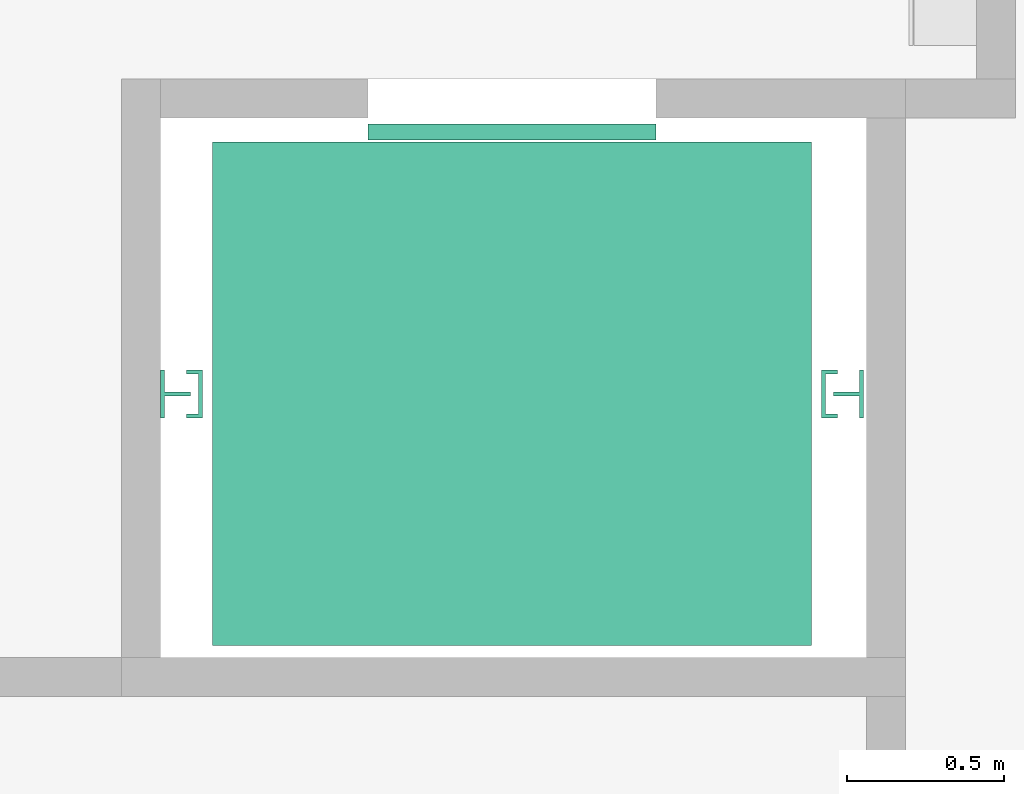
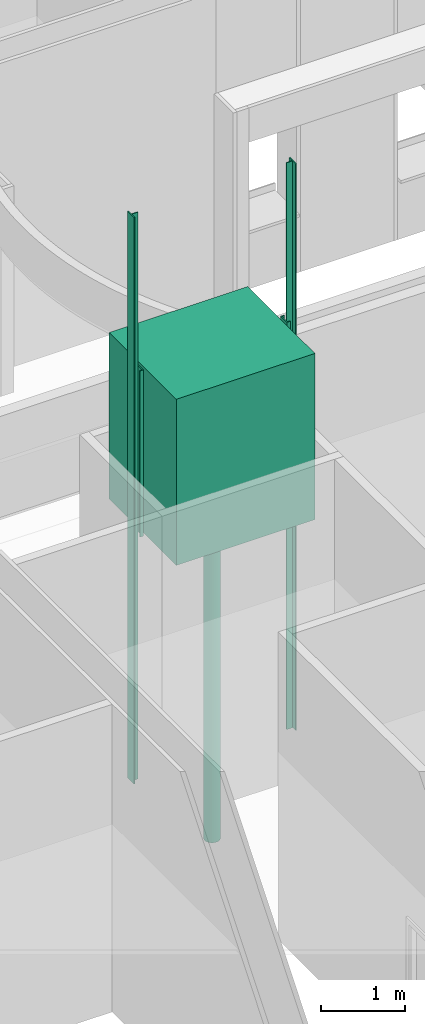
# One storey, part 73 of 87: 1 flow terminal.
"""IFC2X3 building model written with IfcOpenShell, lengths in metres."""

from ifc_helpers import new_model, entity, si_unit, converted_unit, frame, origin, place, context, project, spatial, face_set, surface_model, source, transform, mapped, type_object, type_shapes, element, save


model = new_model("IFC2X3")

# Units and contexts
model_context = context("Model", 3, precision=1e-09, world=origin())
plan_context = context("Plan", 3, precision=1e-09, world=origin())
ifc_project = project(units=[si_unit("LENGTHUNIT", "METRE"), si_unit("AREAUNIT", "SQUARE_METRE"), si_unit("VOLUMEUNIT", "CUBIC_METRE"), converted_unit("PLANEANGLEUNIT", "DEGREE", entity("IfcRatioMeasure", 0.01745329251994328), si_unit("PLANEANGLEUNIT", "RADIAN"), dimensions=[0, 0, 0, 0, 0, 0, 0]), si_unit("TIMEUNIT", "SECOND")], contexts=[model_context, plan_context])

# Site, building, storey, space
site_placement = place(None, origin())
site = spatial("IfcSite", under=ifc_project, at=site_placement, Name="Default", CompositionType="ELEMENT")
building_placement = place(site_placement, origin())
building = spatial("IfcBuilding", under=site, at=building_placement, CompositionType="ELEMENT")
storey_placement = place(building_placement, origin())
storey = spatial("IfcBuildingStorey", under=building, at=storey_placement, Name="First Floor", CompositionType="ELEMENT", Elevation=-3.531500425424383e-13)
space_placement = place(storey_placement, origin())
space = spatial("IfcSpace", under=storey, at=space_placement, Name="E1", CompositionType="ELEMENT", InteriorOrExteriorSpace="INTERNAL")

# Flow terminal
electric_appliance_type = type_object("IfcElectricApplianceType", Name="2000 lbs", PredefinedType="NOTDEFINED")
shared_shape = source(origin(), model_context, "Body", "SurfaceModel", [
    surface_model("IfcFaceBasedSurfaceModel", [(0.1651000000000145, 1.600199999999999, 7.162800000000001), (2.070100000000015, 1.600199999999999, 7.162800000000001), (2.070100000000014, 0.0, 7.162800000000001), (0.1651000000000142, 0.0, 7.162800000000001), (2.032000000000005, 0.0381, 7.162800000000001), (2.032000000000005, 1.5621, 7.162800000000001), (0.2031999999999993, 1.5621, 7.162800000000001), (0.2031999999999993, 0.0381, 7.162800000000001), (0.2031999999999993, 0.0381, 4.876800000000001), (0.2031999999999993, 1.5621, 4.876800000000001), (0.6604000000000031, 1.5621, 4.876800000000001), (0.6604000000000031, 1.600199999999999, 4.876800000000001), (0.1651000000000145, 1.600199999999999, 4.876800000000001), (0.1651000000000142, 0.0, 4.876800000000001), (2.070100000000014, 0.0, 4.876800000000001), (2.070100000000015, 1.600199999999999, 4.876800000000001), (1.574800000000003, 1.600199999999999, 4.876800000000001), (1.574800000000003, 1.5621, 4.876800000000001), (2.032000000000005, 1.5621, 4.876800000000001), (2.032000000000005, 0.0381, 4.876800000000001), (1.574800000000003, 0.0381, 4.876800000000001), (0.6604000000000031, 0.0381, 4.876800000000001), (1.574800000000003, 1.5621, 6.908800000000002), (0.6604000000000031, 1.5621, 6.908800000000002), (1.574800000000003, 1.600199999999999, 6.908800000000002), (0.6604000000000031, 1.600199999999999, 6.908800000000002), (1.574800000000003, 1.60655, 6.908800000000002), (0.6604000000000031, 1.60655, 6.908800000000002), (0.6604000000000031, 1.657349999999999, 6.908800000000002), (1.574800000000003, 1.657349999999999, 6.908800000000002), (1.574800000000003, 1.60655, 4.876800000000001), (0.6604000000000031, 1.60655, 4.876800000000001), (0.6604000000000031, 1.657349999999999, 4.876800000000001), (1.574800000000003, 1.657349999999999, 4.876800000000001), (2.070100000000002, 0.0, 7.1882), (0.1651000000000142, 0.0, 7.1882), (0.1651000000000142, 1.600199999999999, 7.1882), (2.070100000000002, 1.600199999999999, 7.1882), (2.070100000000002, 0.0, 7.162800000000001), (0.1651000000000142, 0.0, 7.162800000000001), (0.1651000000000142, 1.600199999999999, 7.162800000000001), (2.070100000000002, 1.600199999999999, 7.162800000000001), (1.219200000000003, 0.8000999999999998, 4.775200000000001), (1.215738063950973, 0.8263960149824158, 4.775200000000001), (1.205588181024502, 0.8508999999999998, 4.775200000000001), (1.189442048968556, 0.871942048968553, 4.775200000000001), (1.168400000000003, 0.8880881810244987, 4.775200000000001), (1.143896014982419, 0.8982380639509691, 4.775200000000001), (1.117600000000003, 0.9016999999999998, 4.775200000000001), (1.091303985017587, 0.8982380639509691, 4.775200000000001), (1.066800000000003, 0.8880881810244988, 4.775200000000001), (1.04575795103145, 0.8719420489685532, 4.775200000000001), (1.029611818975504, 0.8509, 4.775200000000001), (1.019461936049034, 0.8263960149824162, 4.775200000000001), (1.016000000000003, 0.8000999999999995, 4.775200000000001), (1.019461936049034, 0.7738039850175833, 4.775200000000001), (1.029611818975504, 0.7492999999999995, 4.775200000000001), (1.04575795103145, 0.7282579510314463, 4.775200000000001), (1.066800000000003, 0.7121118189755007, 4.775200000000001), (1.091303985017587, 0.7019619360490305, 4.775200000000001), (1.117600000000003, 0.6984999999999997, 4.775200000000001), (1.143896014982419, 0.7019619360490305, 4.775200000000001), (1.168400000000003, 0.7121118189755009, 4.775200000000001), (1.189442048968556, 0.7282579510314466, 4.775200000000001), (1.205588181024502, 0.7492999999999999, 4.775200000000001), (1.215738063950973, 0.7738039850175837, 4.775200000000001), (1.219200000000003, 0.8000999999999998, 0.0), (1.215738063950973, 0.7738039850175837, 0.0), (1.205588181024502, 0.7492999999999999, 0.0), (1.189442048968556, 0.7282579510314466, 0.0), (1.168400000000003, 0.7121118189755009, 0.0), (1.143896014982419, 0.7019619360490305, 0.0), (1.117600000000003, 0.6984999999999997, 0.0), (1.091303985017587, 0.7019619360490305, 0.0), (1.066800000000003, 0.7121118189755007, 0.0), (1.04575795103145, 0.7282579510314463, 0.0), (1.029611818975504, 0.7492999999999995, 0.0), (1.019461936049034, 0.7738039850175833, 0.0), (1.016000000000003, 0.8001, 0.0), (1.019461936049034, 0.8263960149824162, 0.0), (1.029611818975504, 0.8509, 0.0), (1.04575795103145, 0.8719420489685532, 0.0), (1.066800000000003, 0.8880881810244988, 0.0), (1.091303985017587, 0.8982380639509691, 0.0), (1.117600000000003, 0.9016999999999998, 0.0), (1.143896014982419, 0.8982380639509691, 0.0), (1.168400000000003, 0.8880881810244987, 0.0), (1.189442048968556, 0.871942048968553, 0.0), (1.205588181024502, 0.8508999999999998, 0.0), (1.215738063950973, 0.8263960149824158, 0.0), (2.07010000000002, 0.0, 4.876800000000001), (0.1651000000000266, 0.0, 4.876800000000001), (0.1651000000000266, 1.6002, 4.876800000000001), (2.07010000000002, 1.6002, 4.876800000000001), (2.07010000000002, 0.0, 4.775200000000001), (0.1651000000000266, 0.0, 4.775200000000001), (0.1651000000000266, 1.6002, 4.775200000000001), (2.07010000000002, 1.6002, 4.775200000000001), (0.1333500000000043, 0.7238999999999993, 7.1882), (0.08255000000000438, 0.7238999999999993, 7.1882), (0.08255000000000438, 0.7365999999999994, 7.1882), (0.1206500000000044, 0.7365999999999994, 7.1882), (0.1206500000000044, 0.8635999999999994, 7.1882), (0.08255000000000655, 0.8635999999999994, 7.1882), (0.08255000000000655, 0.8762999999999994, 7.1882), (0.1333500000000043, 0.8762999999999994, 7.1882), (2.101850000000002, 0.7238999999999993, 7.1882), (2.101850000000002, 0.8762999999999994, 7.1882), (2.152650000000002, 0.8762999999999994, 7.1882), (2.152650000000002, 0.8635999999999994, 7.1882), (2.114550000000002, 0.8635999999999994, 7.1882), (2.114550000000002, 0.7365999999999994, 7.1882), (2.152650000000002, 0.7365999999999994, 7.1882), (2.152650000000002, 0.7238999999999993, 7.1882), (0.1333500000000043, 0.7238999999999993, 4.775200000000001), (0.08255000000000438, 0.7238999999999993, 4.775200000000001), (0.08255000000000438, 0.7365999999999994, 4.775200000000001), (0.1206500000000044, 0.7365999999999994, 4.775200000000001), (0.1206500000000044, 0.8635999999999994, 4.775200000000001), (0.08255000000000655, 0.8635999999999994, 4.775200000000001), (0.08255000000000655, 0.8762999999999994, 4.775200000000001), (0.1333500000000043, 0.8762999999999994, 4.775200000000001), (2.101850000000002, 0.7238999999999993, 4.775200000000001), (2.101850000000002, 0.8762999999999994, 4.775200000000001), (2.152650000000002, 0.8762999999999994, 4.775200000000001), (2.152650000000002, 0.8635999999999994, 4.775200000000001), (2.114550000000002, 0.8635999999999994, 4.775200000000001), (2.114550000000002, 0.7365999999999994, 4.775200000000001), (2.152650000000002, 0.7365999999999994, 4.775200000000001), (2.152650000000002, 0.7238999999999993, 4.775200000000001), (0.01270000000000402, 0.7238999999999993, 9.449199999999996), (0.01270000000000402, 0.7937499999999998, 9.449199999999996), (0.09525000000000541, 0.7937499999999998, 9.449199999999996), (0.09525000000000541, 0.8064499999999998, 9.449199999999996), (0.01270000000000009, 0.8064499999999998, 9.449199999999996), (0.01270000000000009, 0.8762999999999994, 9.449199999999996), (0.0, 0.8762999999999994, 9.449199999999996), (0.0, 0.7238999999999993, 9.449199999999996), (2.222499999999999, 0.7238999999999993, 9.449199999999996), (2.222499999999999, 0.7937499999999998, 9.449199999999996), (2.139950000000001, 0.7937499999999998, 9.449199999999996), (2.139950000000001, 0.8064499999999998, 9.449199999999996), (2.222500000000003, 0.8064499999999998, 9.449199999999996), (2.222500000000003, 0.8762999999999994, 9.449199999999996), (2.235200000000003, 0.8762999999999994, 9.449199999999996), (2.235200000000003, 0.7238999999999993, 9.449199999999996), (0.01270000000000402, 0.7238999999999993, 1.2192), (0.0, 0.7238999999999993, 1.2192), (0.0, 0.8762999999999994, 1.2192), (0.01270000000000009, 0.8762999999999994, 1.2192), (0.01270000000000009, 0.8064499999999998, 1.2192), (0.09525000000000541, 0.8064499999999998, 1.2192), (0.09525000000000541, 0.7937499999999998, 1.2192), (0.01270000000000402, 0.7937499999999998, 1.2192), (2.222499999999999, 0.7238999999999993, 1.2192), (2.235200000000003, 0.7238999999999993, 1.2192), (2.235200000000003, 0.8762999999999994, 1.2192), (2.222500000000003, 0.8762999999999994, 1.2192), (2.222500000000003, 0.8064499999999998, 1.2192), (2.139950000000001, 0.8064499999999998, 1.2192), (2.139950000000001, 0.7937499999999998, 1.2192), (2.222499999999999, 0.7937499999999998, 1.2192)], [face_set([[[0, 1, 2, 3], [4, 5, 6, 7]], [[8, 9, 10, 11, 12, 13, 14, 15, 16, 17, 18, 19, 20, 21]], [[5, 4, 19, 18]], [[6, 5, 18, 17, 22, 23, 10, 9]], [[7, 8, 9, 6]], [[4, 19, 20, 21, 8, 7]], [[1, 15, 16, 24, 25, 11, 12, 0]], [[2, 14, 15, 1]], [[3, 2, 14, 13]], [[0, 3, 13, 12]], [[22, 23, 25, 24]], [[23, 10, 11, 25]], [[24, 22, 17, 16]]]), face_set([[[26, 27, 28, 29]], [[30, 31, 32, 33]], [[27, 31, 30, 26]], [[28, 27, 31, 32]], [[29, 28, 32, 33]], [[26, 30, 33, 29]]]), face_set([[[34, 35, 36, 37]], [[38, 39, 40, 41]], [[35, 34, 38, 39]], [[36, 35, 39, 40]], [[37, 41, 40, 36]], [[34, 38, 41, 37]]]), face_set([[[42, 43, 44, 45, 46, 47, 48, 49, 50, 51, 52, 53, 54, 55, 56, 57, 58, 59, 60, 61, 62, 63, 64, 65]], [[66, 67, 68, 69, 70, 71, 72, 73, 74, 75, 76, 77, 78, 79, 80, 81, 82, 83, 84, 85, 86, 87, 88, 89]], [[80, 79, 53, 52]], [[81, 80, 52, 51]], [[83, 82, 50, 49]], [[82, 81, 51, 50]], [[84, 83, 49, 48]], [[79, 78, 54, 53]], [[86, 85, 47, 46]], [[87, 86, 46, 45]], [[89, 88, 44, 43]], [[88, 87, 45, 44]], [[66, 89, 43, 42]], [[48, 47, 85, 84]], [[68, 67, 65, 64]], [[69, 68, 64, 63]], [[71, 70, 62, 61]], [[70, 69, 63, 62]], [[72, 71, 61, 60]], [[66, 42, 65, 67]], [[74, 73, 59, 58]], [[75, 74, 58, 57]], [[77, 76, 56, 55]], [[76, 75, 57, 56]], [[78, 77, 55, 54]], [[60, 59, 73, 72]]]), face_set([[[90, 91, 92, 93]], [[94, 95, 96, 97]], [[91, 90, 94, 95]], [[92, 91, 95, 96]], [[93, 97, 96, 92]], [[90, 94, 97, 93]]]), face_set([[[98, 99, 100, 101, 102, 103, 104, 105]], [[106, 107, 108, 109, 110, 111, 112, 113]], [[114, 115, 116, 117, 118, 119, 120, 121]], [[122, 123, 124, 125, 126, 127, 128, 129]], [[99, 98, 114, 115]], [[100, 99, 115, 116]], [[101, 117, 116, 100]], [[102, 101, 117, 118]], [[103, 102, 118, 119]], [[104, 103, 119, 120]], [[105, 121, 120, 104]], [[98, 114, 121, 105]], [[107, 106, 122, 123]], [[108, 124, 123, 107]], [[109, 125, 124, 108]], [[110, 109, 125, 126]], [[111, 127, 126, 110]], [[112, 128, 127, 111]], [[113, 129, 128, 112]], [[106, 113, 129, 122]]]), face_set([[[130, 131, 132, 133, 134, 135, 136, 137]], [[138, 139, 140, 141, 142, 143, 144, 145]], [[146, 147, 148, 149, 150, 151, 152, 153]], [[154, 155, 156, 157, 158, 159, 160, 161]], [[137, 130, 146, 147]], [[136, 148, 147, 137]], [[135, 149, 148, 136]], [[134, 135, 149, 150]], [[133, 151, 150, 134]], [[132, 152, 151, 133]], [[131, 132, 152, 153]], [[130, 131, 153, 146]], [[139, 138, 154, 161]], [[140, 139, 161, 160]], [[141, 140, 160, 159]], [[142, 158, 159, 141]], [[143, 142, 158, 157]], [[144, 156, 157, 143]], [[145, 155, 156, 144]], [[138, 145, 155, 154]]])]),
])
type_shapes(electric_appliance_type, [shared_shape])
flow_terminal_placement = place(space_placement, frame((-17.70520000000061, 25.84549999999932, -1.219199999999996)))
element("IfcFlowTerminal", 1, at=flow_terminal_placement, inside=space, type_object=electric_appliance_type, Name="M_Elevator-Hydraulic:2000 lbs:2000 lbs", ObjectType="2000 lbs", context=model_context, shape_type="MappedRepresentation", body=[
    mapped(shared_shape, transform((0.0, 0.0, 0.0), scale=1.0)),
])

save(model, "model.ifc")
